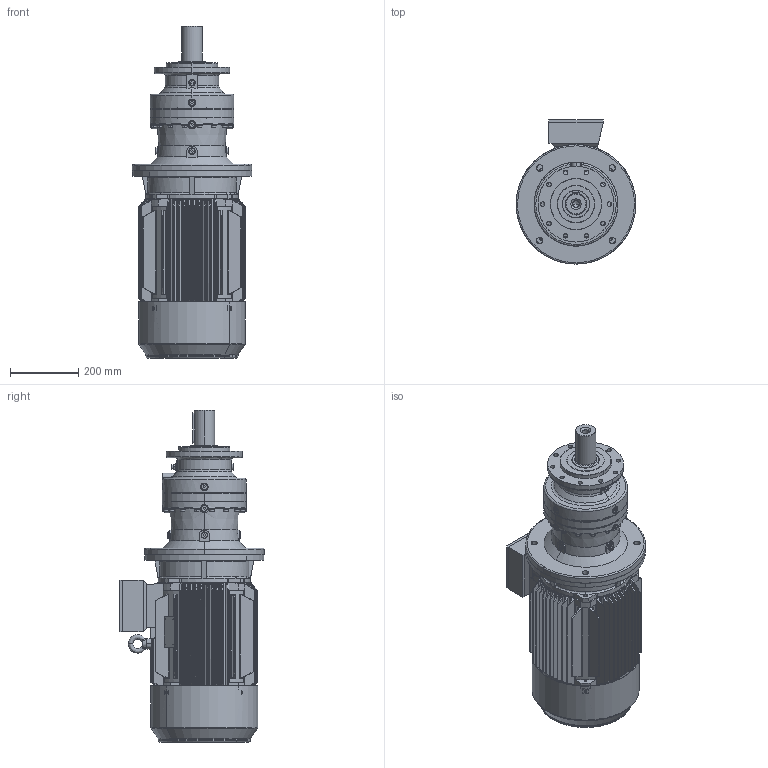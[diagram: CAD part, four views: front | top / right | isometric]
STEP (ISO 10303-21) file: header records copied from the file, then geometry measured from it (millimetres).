
FILE_DESCRIPTION (( 'STEP AP203' ), '1' );
FILE_NAME ('PVL-1501L-HS160L-4.STEP', '2019-05-24T08:32:33', ( '' ), ( '' ), 'SwSTEP 2.0', 'SolidWorks 2012', '' );
FILE_SCHEMA (( 'CONFIG_CONTROL_DESIGN' ));
Products named in the file (17): M3-160L-FF-B5; PVL-1501L-HS160L-4; M3-HS160L-FF-B5; Y2-160_shaft; Eyebolts GB_GB_FASTENER_SCREWS_FRS M12N; Y2-160-2ª¥--®+_-++ñ; +¦i-MN2-160_-++ñ; Y2-160ñ»ª­+¿_-++ñ; Y2-160-4Ý¾6Ý¾8-ª+---®+_-++ñ; +ª+§ªiY2-160ñ»ª­_-++ñ; Y2-160L+À+¿(B5)_-++ñ; FL3A_Varsayìlan; Y2-160-180ñ»ª­®+_-++ñ; ML13A_Varsayìlan; PNL_1501L_0_0_A16_B5_ML13A_FL3A_0_0_0_0_0_0_0_0_0_0_0_M1; P15_Varsayìlan; 15160B5_Varsayìlan
Assembly tree (16 placements, depth 5):
  PVL-1501L-HS160L-4
    PNL_1501L_0_0_A16_B5_ML13A_FL3A_0_0_0_0_0_0_0_0_0_0_0_M1
      P15_Varsayìlan
      15160B5_Varsayìlan
      ML13A_Varsayìlan
      FL3A_Varsayìlan
    M3-HS160L-FF-B5
      M3-160L-FF-B5
        +ª+§ªiY2-160ñ»ª­_-++ñ
          Y2-160-180ñ»ª­®+_-++ñ
          Y2-160ñ»ª­+¿_-++ñ
        Y2-160-4Ý¾6Ý¾8-ª+---®+_-++ñ
        Y2-160L+À+¿(B5)_-++ñ
        Eyebolts GB_GB_FASTENER_SCREWS_FRS M12N
        Y2-160-2ª¥--®+_-++ñ
        +¦i-MN2-160_-++ñ
        Y2-160_shaft
Bounding box: 350 x 422 x 971.1 mm (x, y, z)
Volume: 20067091.7 mm3; surface area: 3147441 mm2
Topology: 12 solids, 12 shells, 2297 faces, 6153 edges, 3945 vertices
Faces by surface type: plane 889, cylinder 885, bspline 249, cone 171, torus 63, sphere 40
Entity records: 114810 total; most frequent: CARTESIAN_POINT 58773, ORIENTED_EDGE 12142, DIRECTION 10134, EDGE_CURVE 6071, VERTEX_POINT 3930, AXIS2_PLACEMENT_3D 3779, EDGE_LOOP 2599, LINE 2576
